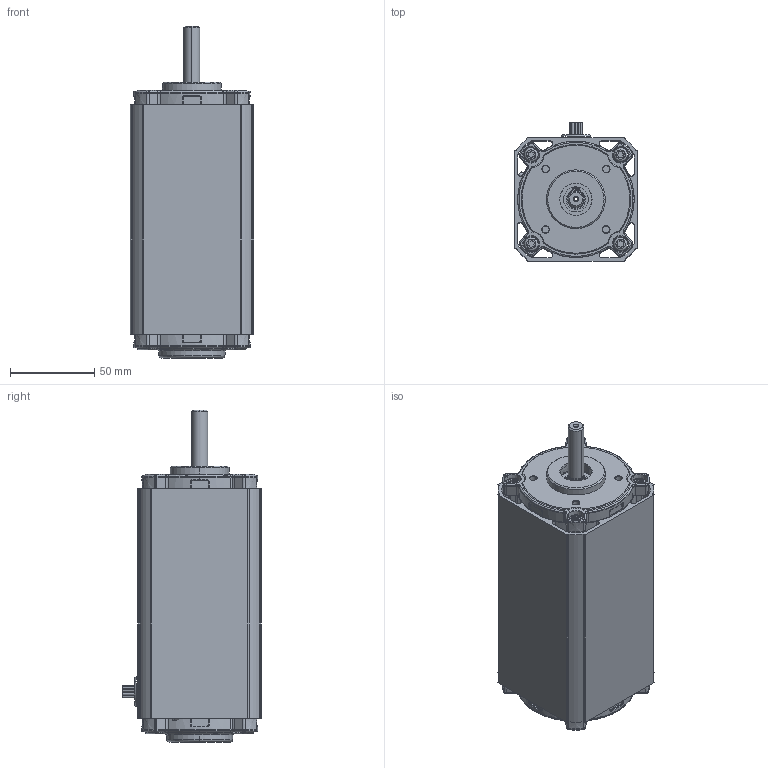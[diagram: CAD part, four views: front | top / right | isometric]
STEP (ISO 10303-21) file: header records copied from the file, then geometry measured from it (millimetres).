
FILE_DESCRIPTION (( 'STEP AP214' ), '1' );
FILE_NAME ('BL6560.STEP', '2013-01-28T17:56:30', ( '' ), ( '' ), 'SwSTEP 2.0', 'SolidWorks 2013', '' );
FILE_SCHEMA (( 'AUTOMOTIVE_DESIGN' ));
Length unit declared in the file: inch
Products named in the file (1): BL6560
Bounding box: 73.36 x 82.37 x 197.05 mm (x, y, z)
Surface area: 104762.5 mm2 (no closed solid volume)
Topology: 0 solids, 51 shells, 1080 faces, 3573 edges, 2477 vertices
Faces by surface type: cylinder 356, plane 288, cone 175, torus 159, bspline 98, sphere 4
Entity records: 58901 total; most frequent: CARTESIAN_POINT 14644, DIRECTION 6366, ORIENTED_EDGE 5878, EDGE_CURVE 3558, VERTEX_POINT 2477, AXIS2_PLACEMENT_3D 2439, LINE 1488, VECTOR 1488
